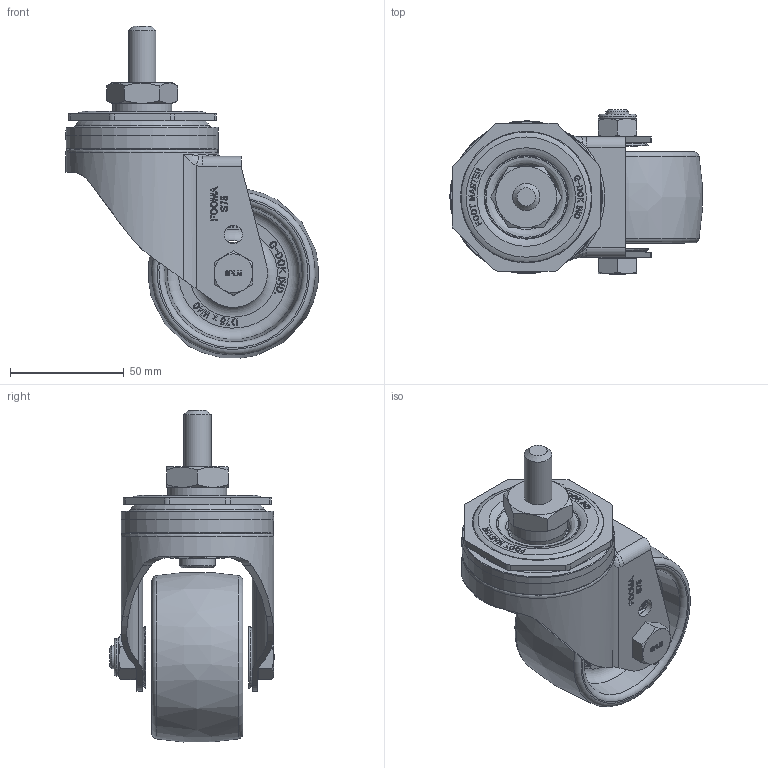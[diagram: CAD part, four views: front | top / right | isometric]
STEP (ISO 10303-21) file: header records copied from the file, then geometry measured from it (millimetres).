
FILE_DESCRIPTION(/* description */ (''),/* implementation_level */ '2;1');
FILE_NAME(/* name */ '\\192.168.10.38\지덕공유\1.기술연구소\2.연구개발 완료\완료_98.스테인레스캐스터 개발건_2023.10.26\제품설계\3D\홈페이지용\NYP\STP\SPLM-75-ASS-NYP-PM12.stp',/* time_stamp */ '2025-07-17T12:59:20+09:00',/* author */ ('admin'),/* organization */ ('지덕산업'),/* preprocessor_version */ 'ST-DEVELOPER v18.1',/* originating_system */ 'Autodesk Inventor 2021',/* authorisation */ '');
FILE_SCHEMA (('CONFIG_CONTROL_DESIGN'));
Length unit declared in the file: millimetre
Products named in the file (1): SPLM-75-ASS-NYP-PM12
Bounding box: 110.69 x 72.3 x 145.69 mm (x, y, z)
Volume: 215593.8 mm3; surface area: 59695.6 mm2
Topology: 1 solids, 1 shells, 1270 faces, 3441 edges, 2275 vertices
Faces by surface type: plane 658, bspline 432, cylinder 94, cone 52, torus 34
Full cylindrical faces by diameter (mm): 8 x2, 10 x1, 11 x1, 12 x1, 16 x2, 16.5 x1, 25.8 x1, 54 x1, 67 x1
Entity records: 40999 total; most frequent: CARTESIAN_POINT 12109, ORIENTED_EDGE 6874, DIRECTION 4378, EDGE_CURVE 3437, VERTEX_POINT 2275, LINE 2084, VECTOR 2084, EDGE_LOOP 1382
